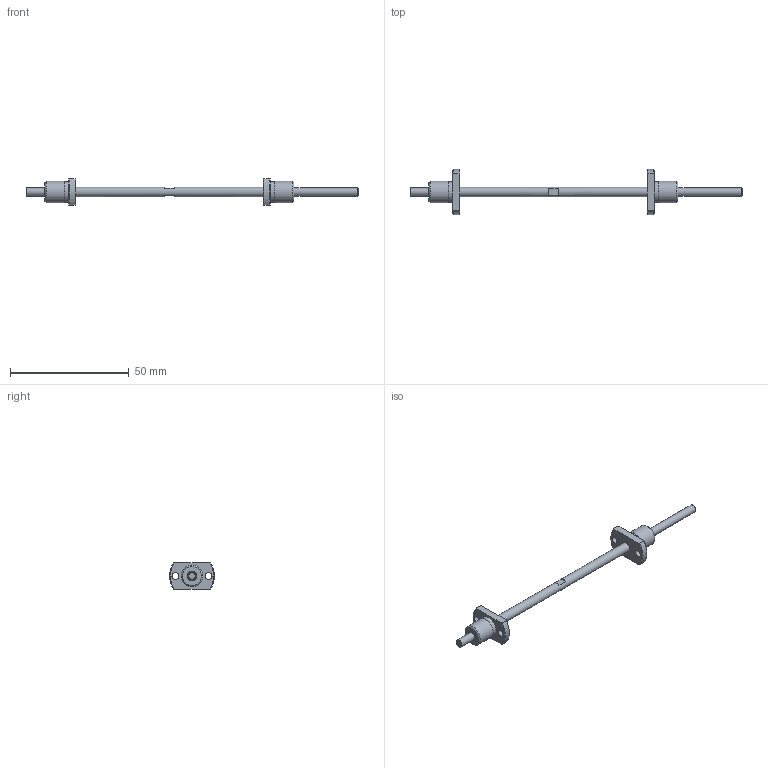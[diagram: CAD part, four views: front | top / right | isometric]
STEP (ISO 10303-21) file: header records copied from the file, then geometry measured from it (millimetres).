
FILE_DESCRIPTION( ( 'STEP AP203' ), '1' );
FILE_NAME( 'e:/temp/worker_103/temp/exporttempdir_5516_383_1xHBK/format_0/SD0401-50L50R140C3(0)(0).stp', '2021-10-19T03:17:46', ( 'License CC BY-ND 4.0' ), ( 'CADENAS' ), ' ', 'PARTsolutions', ' ' );
FILE_SCHEMA( ( 'CONFIG_CONTROL_DESIGN' ) );
Length unit declared in the file: millimetre
Products named in the file (3): SD0401-50L50R140C3(0)(0); _SD0401-50L50R140C3_(00)Shaft; _SD0401C3_n
Assembly tree (3 placements, depth 2):
  SD0401-50L50R140C3(0)(0)
    _SD0401-50L50R140C3_(00)Shaft
    _SD0401C3_n  x2
Bounding box: 140 x 19 x 11 mm (x, y, z)
Volume: 3648.9 mm3; surface area: 3706.5 mm2
Topology: 3 solids, 3 shells, 51 faces, 112 edges, 74 vertices
Faces by surface type: plane 22, cylinder 17, cone 12
Full cylindrical faces by diameter (mm): 2.9 x4, 3.4 x2, 4 x3, 8.7 x2, 9 x2
Entity records: 948 total; most frequent: CARTESIAN_POINT 159, DIRECTION 152, ORIENTED_EDGE 110, AXIS2_PLACEMENT_3D 68, EDGE_LOOP 56, EDGE_CURVE 55, VERTEX_POINT 43, FACE_OUTER_BOUND 41
